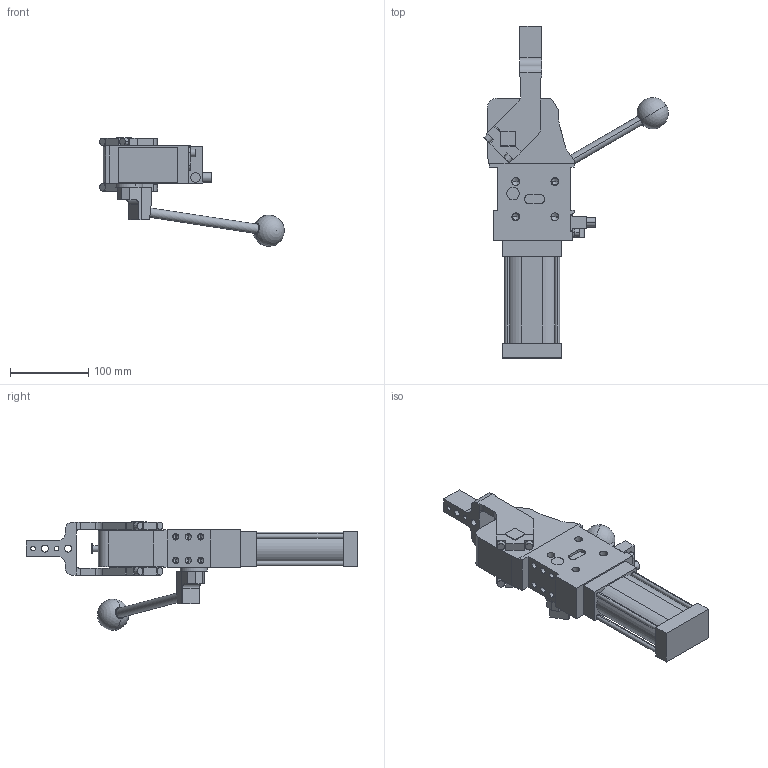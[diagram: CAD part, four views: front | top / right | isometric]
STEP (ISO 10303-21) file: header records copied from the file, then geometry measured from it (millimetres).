
FILE_DESCRIPTION (( 'STEP AP214' ), '1' );
FILE_NAME ('cplm50lbh1csi1g_75.STEP', '2023-01-26T13:14:28', ( '' ), ( '' ), 'SwSTEP 2.0', 'SolidWorks 2022', '' );
FILE_SCHEMA (( 'AUTOMOTIVE_DESIGN' ));
Length unit declared in the file: millimetre
Products named in the file (6): meccanica_cplm_50; blocchetto_VEP_90; cplm50lbh1csi1g_75; leva_cx_offset_15_cpl50; comando_manuale_cplm_50; blocchetto_VEP_0
Assembly tree (5 placements, depth 2):
  cplm50lbh1csi1g_75
    meccanica_cplm_50
    blocchetto_VEP_0
    leva_cx_offset_15_cpl50
    blocchetto_VEP_90
    comando_manuale_cplm_50
Bounding box: 235.94 x 424.5 x 139 mm (x, y, z)
Volume: 1478824.7 mm3; surface area: 185691.8 mm2
Topology: 5 solids, 5 shells, 455 faces, 1166 edges, 729 vertices
Faces by surface type: plane 230, cylinder 173, cone 50, sphere 2
Entity records: 15111 total; most frequent: DIRECTION 2407, CARTESIAN_POINT 2374, ORIENTED_EDGE 2230, EDGE_CURVE 1115, AXIS2_PLACEMENT_3D 833, LINE 741, VECTOR 741, VERTEX_POINT 726
